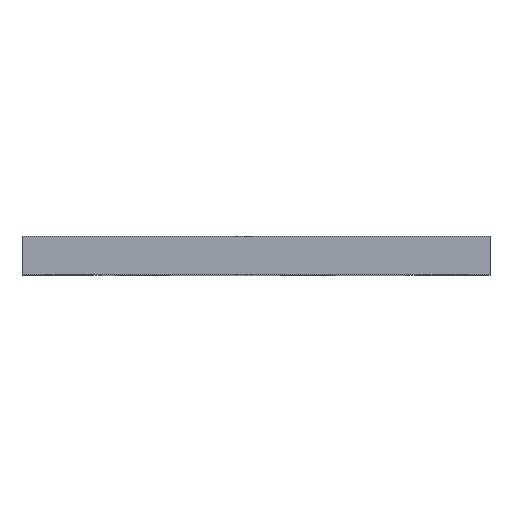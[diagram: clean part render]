
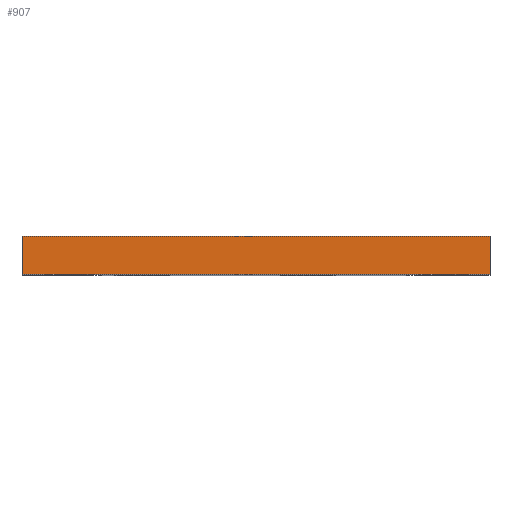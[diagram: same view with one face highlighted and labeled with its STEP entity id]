
A CAD part, top view. The second image highlights one B-rep face of the part: STEP entity #907.
In plain terms, the highlighted planar face has unit normal (0, 0, 1).
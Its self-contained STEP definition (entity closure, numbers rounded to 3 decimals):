
#179=ORIENTED_EDGE('',*,*,#401,.T.);
#180=ORIENTED_EDGE('',*,*,#415,.F.);
#181=ORIENTED_EDGE('',*,*,#367,.F.);
#182=ORIENTED_EDGE('',*,*,#413,.T.);
#367=EDGE_CURVE('',#487,#488,#565,.T.);
#401=EDGE_CURVE('',#521,#520,#586,.T.);
#413=EDGE_CURVE('',#487,#521,#593,.T.);
#415=EDGE_CURVE('',#488,#520,#595,.T.);
#487=VERTEX_POINT('',#1391);
#488=VERTEX_POINT('',#1393);
#520=VERTEX_POINT('',#1459);
#521=VERTEX_POINT('',#1461);
#565=LINE('',#1392,#645);
#586=LINE('',#1460,#666);
#593=LINE('',#1484,#673);
#595=LINE('',#1487,#675);
#645=VECTOR('',#1116,1000.);
#666=VECTOR('',#1165,1000.);
#673=VECTOR('',#1184,1000.);
#675=VECTOR('',#1188,1000.);
#733=EDGE_LOOP('',(#179,#180,#181,#182));
#815=FACE_BOUND('',#733,.T.);
#878=PLANE('',#1002);
#907=ADVANCED_FACE('',(#815),#878,.F.);
#1002=AXIS2_PLACEMENT_3D('',#1486,#1186,#1187);
#1116=DIRECTION('',(-1.,0.,0.));
#1165=DIRECTION('',(-1.,0.,0.));
#1184=DIRECTION('',(0.,1.,0.));
#1186=DIRECTION('',(0.,0.,-1.));
#1187=DIRECTION('',(-1.,0.,0.));
#1188=DIRECTION('',(0.,1.,0.));
#1391=CARTESIAN_POINT('',(30.797,-3.175,72.914));
#1392=CARTESIAN_POINT('',(30.797,-3.175,72.914));
#1393=CARTESIAN_POINT('',(-8.094,-3.175,72.914));
#1459=CARTESIAN_POINT('',(-8.094,0.,72.914));
#1460=CARTESIAN_POINT('',(30.797,0.,72.914));
#1461=CARTESIAN_POINT('',(30.797,0.,72.914));
#1484=CARTESIAN_POINT('',(30.797,-3.175,72.914));
#1486=CARTESIAN_POINT('',(30.797,-3.175,72.914));
#1487=CARTESIAN_POINT('',(-8.094,-3.175,72.914));
